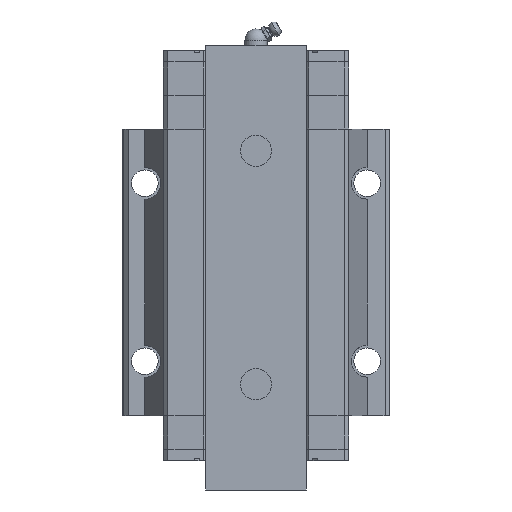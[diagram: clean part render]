
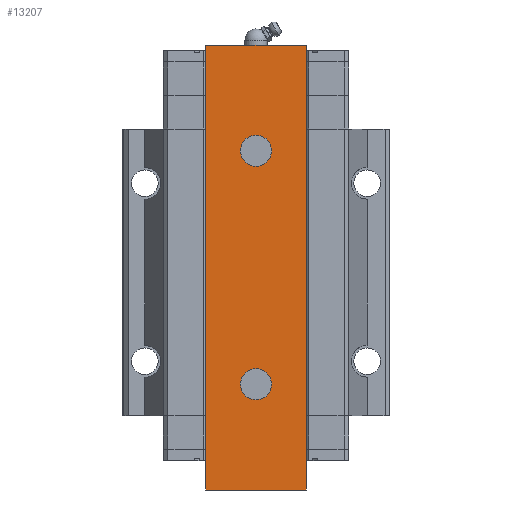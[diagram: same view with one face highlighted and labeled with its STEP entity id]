
A CAD part, front view. The second image highlights one B-rep face of the part: STEP entity #13207.
In plain terms, the highlighted planar face has unit normal (0, -1, 0).
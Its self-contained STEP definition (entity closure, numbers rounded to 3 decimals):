
#675 = CIRCLE ( 'NONE', #20493, 7. ) ;
#677 = ORIENTED_EDGE ( 'NONE', *, *, #19961, .T. ) ;
#860 = ORIENTED_EDGE ( 'NONE', *, *, #11238, .T. ) ;
#875 = AXIS2_PLACEMENT_3D ( 'NONE', #22590, #12971, #10288 ) ;
#1109 = PLANE ( 'NONE',  #23255 ) ;
#1557 = CARTESIAN_POINT ( 'NONE',  ( -22.5, -9.5, 100. ) ) ;
#2332 = ORIENTED_EDGE ( 'NONE', *, *, #26345, .T. ) ;
#2779 = CARTESIAN_POINT ( 'NONE',  ( -22.5, -9.5, -100. ) ) ;
#2930 = DIRECTION ( 'NONE',  ( 1., 0., 0. ) ) ;
#2945 = CIRCLE ( 'NONE', #16462, 7. ) ;
#3963 = DIRECTION ( 'NONE',  ( 1., 0., 0. ) ) ;
#5269 = VERTEX_POINT ( 'NONE', #8916 ) ;
#5842 = CARTESIAN_POINT ( 'NONE',  ( -22.5, -9.5, 100. ) ) ;
#6932 = LINE ( 'NONE', #19644, #29723 ) ;
#7951 = DIRECTION ( 'NONE',  ( 0., 0., 1. ) ) ;
#8119 = ORIENTED_EDGE ( 'NONE', *, *, #17904, .F. ) ;
#8916 = CARTESIAN_POINT ( 'NONE',  ( 0., -9.5, 59.5 ) ) ;
#9067 = CARTESIAN_POINT ( 'NONE',  ( 0., -9.5, 52.5 ) ) ;
#10288 = DIRECTION ( 'NONE',  ( 0., 0., 1. ) ) ;
#10496 = EDGE_CURVE ( 'NONE', #18453, #21640, #2945, .T. ) ;
#10633 = FACE_BOUND ( 'NONE', #18036, .T. ) ;
#11238 = EDGE_CURVE ( 'NONE', #5269, #29466, #675, .T. ) ;
#11378 = EDGE_CURVE ( 'NONE', #11713, #20150, #14688, .T. ) ;
#11713 = VERTEX_POINT ( 'NONE', #25500 ) ;
#12971 = DIRECTION ( 'NONE',  ( 0., 1., 0. ) ) ;
#13207 = ADVANCED_FACE ( 'NONE', ( #16369, #10633, #29252 ), #1109, .T. ) ;
#13244 = CARTESIAN_POINT ( 'NONE',  ( 0., -9.5, -45.5 ) ) ;
#13516 = DIRECTION ( 'NONE',  ( 0., 1., 0. ) ) ;
#14536 = DIRECTION ( 'NONE',  ( 0., 1., 0. ) ) ;
#14688 = LINE ( 'NONE', #2779, #26848 ) ;
#15560 = VECTOR ( 'NONE', #25009, 1000. ) ;
#16085 = DIRECTION ( 'NONE',  ( 0., 0., 1. ) ) ;
#16369 = FACE_BOUND ( 'NONE', #19778, .T. ) ;
#16462 = AXIS2_PLACEMENT_3D ( 'NONE', #21468, #14536, #17063 ) ;
#16487 = CARTESIAN_POINT ( 'NONE',  ( -22.5, -9.5, -100. ) ) ;
#17063 = DIRECTION ( 'NONE',  ( 0., 0., 1. ) ) ;
#17077 = CARTESIAN_POINT ( 'NONE',  ( 0., -9.5, 45.5 ) ) ;
#17337 = CIRCLE ( 'NONE', #25406, 7. ) ;
#17535 = DIRECTION ( 'NONE',  ( 0., 1., 0. ) ) ;
#17904 = EDGE_CURVE ( 'NONE', #20150, #25535, #29214, .T. ) ;
#18036 = EDGE_LOOP ( 'NONE', ( #860, #25474 ) ) ;
#18453 = VERTEX_POINT ( 'NONE', #13244 ) ;
#19320 = DIRECTION ( 'NONE',  ( 0., 0., 1. ) ) ;
#19644 = CARTESIAN_POINT ( 'NONE',  ( -22.5, -9.5, -100. ) ) ;
#19778 = EDGE_LOOP ( 'NONE', ( #24130, #2332 ) ) ;
#19823 = CARTESIAN_POINT ( 'NONE',  ( 22.5, -9.5, -100. ) ) ;
#19961 = EDGE_CURVE ( 'NONE', #26677, #25535, #22408, .T. ) ;
#20042 = CARTESIAN_POINT ( 'NONE',  ( 22.5, -9.5, -100. ) ) ;
#20150 = VERTEX_POINT ( 'NONE', #1557 ) ;
#20454 = CIRCLE ( 'NONE', #875, 7. ) ;
#20493 = AXIS2_PLACEMENT_3D ( 'NONE', #9067, #13516, #16085 ) ;
#21124 = CARTESIAN_POINT ( 'NONE',  ( 22.5, -9.5, 100. ) ) ;
#21179 = ORIENTED_EDGE ( 'NONE', *, *, #11378, .F. ) ;
#21446 = EDGE_CURVE ( 'NONE', #29466, #5269, #17337, .T. ) ;
#21468 = CARTESIAN_POINT ( 'NONE',  ( 0., -9.5, -52.5 ) ) ;
#21640 = VERTEX_POINT ( 'NONE', #24811 ) ;
#22260 = CARTESIAN_POINT ( 'NONE',  ( 0., -9.5, 52.5 ) ) ;
#22408 = LINE ( 'NONE', #20042, #30452 ) ;
#22590 = CARTESIAN_POINT ( 'NONE',  ( 0., -9.5, -52.5 ) ) ;
#23255 = AXIS2_PLACEMENT_3D ( 'NONE', #16487, #28161, #3963 ) ;
#24130 = ORIENTED_EDGE ( 'NONE', *, *, #10496, .T. ) ;
#24811 = CARTESIAN_POINT ( 'NONE',  ( 0., -9.5, -59.5 ) ) ;
#24976 = EDGE_LOOP ( 'NONE', ( #677, #8119, #21179, #29683 ) ) ;
#25009 = DIRECTION ( 'NONE',  ( 1., 0., 0. ) ) ;
#25029 = DIRECTION ( 'NONE',  ( 0., 0., 1. ) ) ;
#25406 = AXIS2_PLACEMENT_3D ( 'NONE', #22260, #17535, #7951 ) ;
#25474 = ORIENTED_EDGE ( 'NONE', *, *, #21446, .T. ) ;
#25500 = CARTESIAN_POINT ( 'NONE',  ( -22.5, -9.5, -100. ) ) ;
#25535 = VERTEX_POINT ( 'NONE', #21124 ) ;
#26345 = EDGE_CURVE ( 'NONE', #21640, #18453, #20454, .T. ) ;
#26677 = VERTEX_POINT ( 'NONE', #19823 ) ;
#26848 = VECTOR ( 'NONE', #19320, 1000. ) ;
#28161 = DIRECTION ( 'NONE',  ( 0., -1., 0. ) ) ;
#29214 = LINE ( 'NONE', #5842, #15560 ) ;
#29252 = FACE_OUTER_BOUND ( 'NONE', #24976, .T. ) ;
#29466 = VERTEX_POINT ( 'NONE', #17077 ) ;
#29683 = ORIENTED_EDGE ( 'NONE', *, *, #30660, .T. ) ;
#29723 = VECTOR ( 'NONE', #2930, 1000. ) ;
#30452 = VECTOR ( 'NONE', #25029, 1000. ) ;
#30660 = EDGE_CURVE ( 'NONE', #11713, #26677, #6932, .T. ) ;
